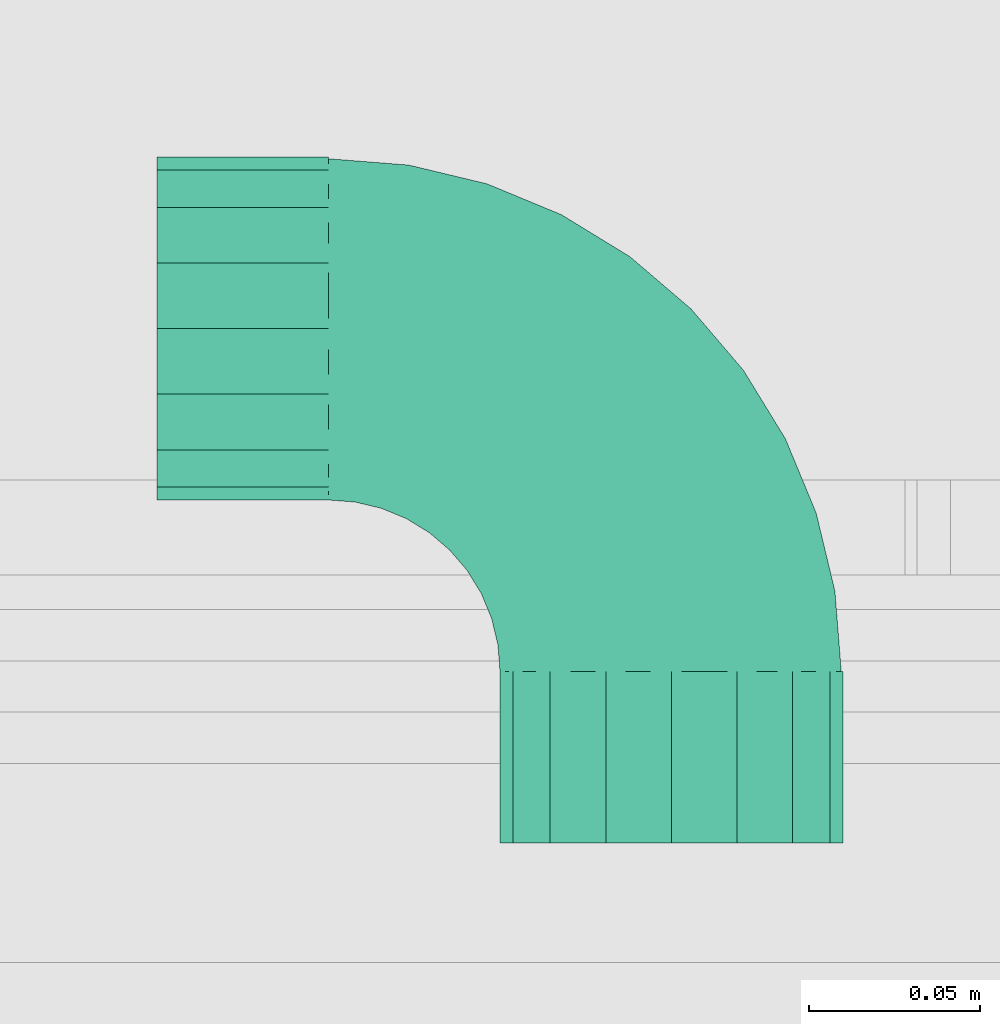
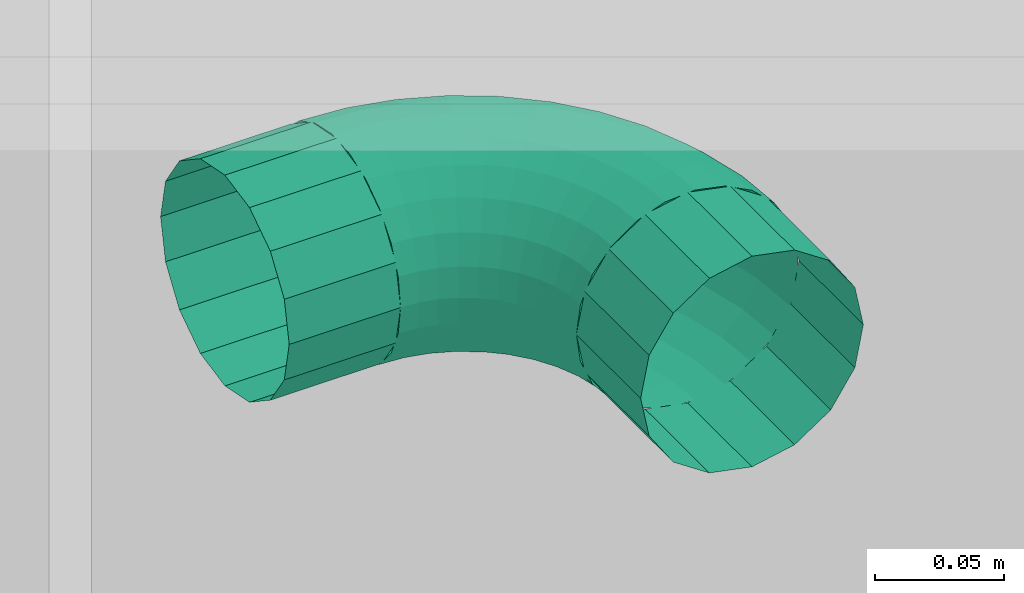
# One storey, part 156 of 169: 1 flow fitting.
"""IFC2X3 building model written with IfcOpenShell, lengths in metres."""

from ifc_helpers import new_model, entity, si_unit, converted_unit, derived_unit, money_unit, direction, frame, origin_with_axes, place, context, subcontext, project, spatial, open_shell, surface_model, material, type_object, element, save


model = new_model("IFC2X3")

# Units and contexts
model_context = context("Model", 3, precision=1e-05, world=origin_with_axes(), true_north=direction((0.0, 1.0)))
body_context = subcontext(model_context, "Body", "Model", "MODEL_VIEW", scale=1.0)
ifc_project = project(units=[si_unit("LENGTHUNIT", "METRE"), si_unit("AREAUNIT", "SQUARE_METRE"), si_unit("VOLUMEUNIT", "CUBIC_METRE"), si_unit("ABSORBEDDOSEUNIT", "GRAY"), si_unit("AMOUNTOFSUBSTANCEUNIT", "MOLE"), si_unit("DOSEEQUIVALENTUNIT", "SIEVERT"), si_unit("ELECTRICCAPACITANCEUNIT", "FARAD"), si_unit("ELECTRICCHARGEUNIT", "COULOMB"), si_unit("ELECTRICCONDUCTANCEUNIT", "SIEMENS"), si_unit("ELECTRICCURRENTUNIT", "AMPERE"), si_unit("ELECTRICRESISTANCEUNIT", "OHM"), si_unit("ELECTRICVOLTAGEUNIT", "VOLT"), si_unit("ENERGYUNIT", "JOULE"), si_unit("FORCEUNIT", "NEWTON"), si_unit("FREQUENCYUNIT", "HERTZ"), si_unit("ILLUMINANCEUNIT", "LUX"), si_unit("INDUCTANCEUNIT", "HENRY"), si_unit("LUMINOUSFLUXUNIT", "LUMEN"), si_unit("LUMINOUSINTENSITYUNIT", "CANDELA"), si_unit("MAGNETICFLUXDENSITYUNIT", "TESLA"), si_unit("MAGNETICFLUXUNIT", "WEBER"), si_unit("MASSUNIT", "GRAM"), converted_unit("PLANEANGLEUNIT", "degree", entity("IfcReal", 0.0174532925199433), si_unit("PLANEANGLEUNIT", "RADIAN"), dimensions=[0, 0, 0, 0, 0, 0, 0]), si_unit("POWERUNIT", "WATT"), si_unit("PRESSUREUNIT", "PASCAL"), si_unit("RADIOACTIVITYUNIT", "BECQUEREL"), si_unit("SOLIDANGLEUNIT", "STERADIAN"), si_unit("THERMODYNAMICTEMPERATUREUNIT", "KELVIN"), si_unit("TIMEUNIT", "SECOND"), derived_unit("ACCELERATIONUNIT", [(si_unit("LENGTHUNIT", "METRE"), 1), (si_unit("TIMEUNIT", "SECOND"), -2)]), derived_unit("ANGULARVELOCITYUNIT", [(converted_unit("PLANEANGLEUNIT", "degree", entity("IfcReal", 0.0174532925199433), si_unit("PLANEANGLEUNIT", "RADIAN"), dimensions=[0, 0, 0, 0, 0, 0, 0]), 1), (si_unit("TIMEUNIT", "SECOND"), -1)]), derived_unit("CURVATUREUNIT", [(converted_unit("PLANEANGLEUNIT", "degree", entity("IfcReal", 0.0174532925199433), si_unit("PLANEANGLEUNIT", "RADIAN"), dimensions=[0, 0, 0, 0, 0, 0, 0]), 1), (si_unit("LENGTHUNIT", "METRE"), -1)]), derived_unit("DYNAMICVISCOSITYUNIT", [(si_unit("PRESSUREUNIT", "PASCAL"), 1), (si_unit("TIMEUNIT", "SECOND"), 1)]), derived_unit("HEATFLUXDENSITYUNIT", [(si_unit("POWERUNIT", "WATT"), 1), (si_unit("LENGTHUNIT", "METRE"), -2)]), derived_unit("HEATINGVALUEUNIT", [(si_unit("ENERGYUNIT", "JOULE"), 1), (si_unit("MASSUNIT", "GRAM"), -1)]), derived_unit("INTEGERCOUNTRATEUNIT", [(si_unit("TIMEUNIT", "SECOND"), -1)]), derived_unit("IONCONCENTRATIONUNIT", [(si_unit("MASSUNIT", "GRAM"), 1), (si_unit("VOLUMEUNIT", "CUBIC_METRE"), -1)]), derived_unit("ISOTHERMALMOISTURECAPACITYUNIT", [(si_unit("VOLUMEUNIT", "CUBIC_METRE"), 1), (si_unit("MASSUNIT", "GRAM"), -1)]), derived_unit("KINEMATICVISCOSITYUNIT", [(si_unit("AREAUNIT", "SQUARE_METRE"), 1), (si_unit("TIMEUNIT", "SECOND"), -1)]), derived_unit("LINEARFORCEUNIT", [(si_unit("FORCEUNIT", "NEWTON"), 1), (si_unit("LENGTHUNIT", "METRE"), -1)]), derived_unit("LINEARMOMENTUNIT", [(si_unit("FORCEUNIT", "NEWTON"), 1), (si_unit("LENGTHUNIT", "METRE"), -1)]), derived_unit("LINEARSTIFFNESSUNIT", [(si_unit("FORCEUNIT", "NEWTON"), 1), (si_unit("LENGTHUNIT", "METRE"), -1)]), derived_unit("LINEARVELOCITYUNIT", [(si_unit("LENGTHUNIT", "METRE"), 1), (si_unit("TIMEUNIT", "SECOND"), -1)]), derived_unit("LUMINOUSINTENSITYDISTRIBUTIONUNIT", [(si_unit("LUMINOUSINTENSITYUNIT", "CANDELA"), 1), (si_unit("LUMINOUSFLUXUNIT", "LUMEN"), -1)]), derived_unit("MASSDENSITYUNIT", [(si_unit("MASSUNIT", "GRAM"), 1), (si_unit("VOLUMEUNIT", "CUBIC_METRE"), -1)]), derived_unit("MASSFLOWRATEUNIT", [(si_unit("MASSUNIT", "GRAM"), 1), (si_unit("TIMEUNIT", "SECOND"), -1)]), derived_unit("MASSPERLENGTHUNIT", [(si_unit("MASSUNIT", "GRAM"), 1), (si_unit("LENGTHUNIT", "METRE"), -1)]), derived_unit("MODULUSOFELASTICITYUNIT", [(si_unit("FORCEUNIT", "NEWTON"), 1), (si_unit("AREAUNIT", "SQUARE_METRE"), -1)]), derived_unit("MODULUSOFLINEARSUBGRADEREACTIONUNIT", [(si_unit("FORCEUNIT", "NEWTON"), 1), (si_unit("LENGTHUNIT", "METRE"), -2)]), derived_unit("MODULUSOFROTATIONALSUBGRADEREACTIONUNIT", [(si_unit("FORCEUNIT", "NEWTON"), 1), (si_unit("LENGTHUNIT", "METRE"), 1)]), derived_unit("MODULUSOFSUBGRADEREACTIONUNIT", [(si_unit("FORCEUNIT", "NEWTON"), 1), (si_unit("VOLUMEUNIT", "CUBIC_METRE"), -1)]), derived_unit("MOISTUREDIFFUSIVITYUNIT", [(si_unit("VOLUMEUNIT", "CUBIC_METRE"), 1), (si_unit("TIMEUNIT", "SECOND"), -1)]), derived_unit("MOLECULARWEIGHTUNIT", [(si_unit("MASSUNIT", "GRAM"), 1), (si_unit("AMOUNTOFSUBSTANCEUNIT", "MOLE"), -1)]), derived_unit("PLANARFORCEUNIT", [(si_unit("FORCEUNIT", "NEWTON"), 1), (si_unit("LENGTHUNIT", "METRE"), -2)]), derived_unit("ROTATIONALFREQUENCYUNIT", [(si_unit("TIMEUNIT", "SECOND"), -1)]), derived_unit("ROTATIONALMASSUNIT", [(si_unit("MASSUNIT", "GRAM"), 1), (si_unit("LENGTHUNIT", "METRE"), 2)]), derived_unit("ROTATIONALSTIFFNESSUNIT", [(si_unit("FORCEUNIT", "NEWTON"), 1), (si_unit("LENGTHUNIT", "METRE"), 1), (converted_unit("PLANEANGLEUNIT", "degree", entity("IfcReal", 0.0174532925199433), si_unit("PLANEANGLEUNIT", "RADIAN"), dimensions=[0, 0, 0, 0, 0, 0, 0]), -1)]), derived_unit("SECTIONAREAINTEGRALUNIT", [(si_unit("LENGTHUNIT", "METRE"), 5)]), derived_unit("SECTIONMODULUSUNIT", [(si_unit("LENGTHUNIT", "METRE"), 3)]), derived_unit("SHEARMODULUSUNIT", [(si_unit("FORCEUNIT", "NEWTON"), 1), (si_unit("AREAUNIT", "SQUARE_METRE"), -1)]), derived_unit("SOUNDPOWERUNIT", [(si_unit("ENERGYUNIT", "JOULE"), 1), (si_unit("TIMEUNIT", "SECOND"), -1)]), derived_unit("SPECIFICHEATCAPACITYUNIT", [(si_unit("FORCEUNIT", "NEWTON"), 1), (si_unit("MASSUNIT", "GRAM"), -1), (si_unit("THERMODYNAMICTEMPERATUREUNIT", "KELVIN"), -1)]), derived_unit("TEMPERATUREGRADIENTUNIT", [(si_unit("THERMODYNAMICTEMPERATUREUNIT", "KELVIN"), 1), (si_unit("LENGTHUNIT", "METRE"), -1)]), derived_unit("THERMALADMITTANCEUNIT", [(si_unit("POWERUNIT", "WATT"), 1), (si_unit("AREAUNIT", "SQUARE_METRE"), -1), (si_unit("THERMODYNAMICTEMPERATUREUNIT", "KELVIN"), -1)]), derived_unit("THERMALCONDUCTANCEUNIT", [(si_unit("POWERUNIT", "WATT"), 1), (si_unit("LENGTHUNIT", "METRE"), -1), (si_unit("THERMODYNAMICTEMPERATUREUNIT", "KELVIN"), -1)]), derived_unit("THERMALEXPANSIONCOEFFICIENTUNIT", [(si_unit("THERMODYNAMICTEMPERATUREUNIT", "KELVIN"), -1)]), derived_unit("THERMALRESISTANCEUNIT", [(si_unit("AREAUNIT", "SQUARE_METRE"), 1), (si_unit("POWERUNIT", "WATT"), -1)]), derived_unit("THERMALTRANSMITTANCEUNIT", [(si_unit("POWERUNIT", "WATT"), 1), (si_unit("AREAUNIT", "SQUARE_METRE"), -1), (si_unit("THERMODYNAMICTEMPERATUREUNIT", "KELVIN"), -1)]), derived_unit("TORQUEUNIT", [(si_unit("FORCEUNIT", "NEWTON"), 1), (si_unit("LENGTHUNIT", "METRE"), 1)]), derived_unit("VAPORPERMEABILITYUNIT", [(si_unit("MASSUNIT", "GRAM"), 1), (si_unit("TIMEUNIT", "SECOND"), -1)]), derived_unit("VOLUMETRICFLOWRATEUNIT", [(si_unit("VOLUMEUNIT", "CUBIC_METRE"), 1), (si_unit("TIMEUNIT", "SECOND"), -1)]), derived_unit("WARPINGCONSTANTUNIT", [(si_unit("LENGTHUNIT", "METRE"), 6)]), derived_unit("WARPINGMOMENTUNIT", [(si_unit("FORCEUNIT", "NEWTON"), 1), (si_unit("LENGTHUNIT", "METRE"), 2)]), money_unit("GBP")], contexts=[model_context])

# Site, building, storey, space
site_placement = place(None, origin_with_axes())
site = spatial("IfcSite", under=ifc_project, at=site_placement, Name="Site", CompositionType="ELEMENT")
building_placement = place(site_placement, origin_with_axes())
building = spatial("IfcBuilding", under=site, at=building_placement, Name="Building01", CompositionType="ELEMENT")
storey_placement = place(building_placement, frame((0.0, 0.0, 5.15), z_axis=(0.0, 0.0, 1.0), x_axis=(1.0, 0.0, 0.0)))
storey = spatial("IfcBuildingStorey", under=building, at=storey_placement, Name="1F", CompositionType="ELEMENT", Elevation=5.15)
space_placement = place(storey_placement, frame((1.009939, 13.890379, 9.86), z_axis=(0.0, 0.0, 1.0), x_axis=(0.0, -1.0, 0.0)))
space = spatial("IfcSpace", under=storey, at=space_placement, Name="26", CompositionType="ELEMENT", InteriorOrExteriorSpace="NOTDEFINED")

# Flow fitting
ifc_material = material(Name="M_BSUK_Ventilation")
duct_fitting_type = type_object("IfcDuctFittingType", Name="M-Roundelbow-DefaultRound", PredefinedType="BEND")
placement = place(building_placement, origin_with_axes())
flow_fitting_placement = place(placement, frame((3.07, 8.432559, 17.28), z_axis=(1.0, 0.0, 0.0), x_axis=(0.0, 1.0, 0.0)))
element("IfcFlowFitting", 1, at=flow_fitting_placement, inside=space, type_object=duct_fitting_type, material=ifc_material, Name="M-Roundelbow-DefaultRound", ObjectType="M-Roundelbow-DefaultRound", context=body_context, shape_type="SurfaceModel", body=[
    surface_model("IfcShellBasedSurfaceModel", [(0.008112, -0.01349, -0.048784), (0.0, -0.01349, -0.048146), (0.0, 0.0, -0.05), (0.007822, 0.0, -0.050616), (0.016024, -0.01349, -0.050684), (0.015451, 0.0, -0.052447), (0.023541, -0.01349, -0.053798), (0.0227, 0.0, -0.05545), (0.030479, -0.01349, -0.058049), (0.029389, 0.0, -0.059549), (0.036666, -0.01349, -0.063334), (0.035355, 0.0, -0.064645), (0.041951, -0.01349, -0.069521), (0.040451, 0.0, -0.070611), (0.046202, -0.01349, -0.076459), (0.04455, 0.0, -0.0773), (0.049316, -0.01349, -0.083976), (0.047553, 0.0, -0.084549), (0.051216, -0.01349, -0.091888), (0.049384, 0.0, -0.092178), (0.051854, -0.01349, -0.1), (0.05, 0.0, -0.1), (0.00896, -0.025979, -0.043426), (0.0, -0.025979, -0.042721), (0.0177, -0.025979, -0.045524), (0.026004, -0.025979, -0.048964), (0.033668, -0.025979, -0.05366), (0.040502, -0.025979, -0.059498), (0.04634, -0.025979, -0.066332), (0.051036, -0.025979, -0.073996), (0.054476, -0.025979, -0.0823), (0.056574, -0.025979, -0.09104), (0.057279, -0.025979, -0.1), (0.010305, -0.036542, -0.034939), (0.0, -0.036542, -0.034128), (0.020356, -0.036542, -0.037352), (0.029905, -0.036542, -0.041307), (0.038719, -0.036542, -0.046708), (0.046579, -0.036542, -0.053421), (0.053292, -0.036542, -0.061281), (0.058693, -0.036542, -0.070095), (0.062648, -0.036542, -0.079644), (0.065061, -0.036542, -0.089695), (0.065872, -0.036542, -0.1), (0.012045, -0.044394, -0.023951), (0.0, -0.044394, -0.023003), (0.023793, -0.044394, -0.026772), (0.034956, -0.044394, -0.031395), (0.045258, -0.044394, -0.037708), (0.054445, -0.044394, -0.045555), (0.062292, -0.044394, -0.054742), (0.068605, -0.044394, -0.065044), (0.073228, -0.044394, -0.076207), (0.076049, -0.044394, -0.087955), (0.076997, -0.044394, -0.1), (0.014052, -0.048954, -0.011279), (0.0, -0.048954, -0.010173), (0.027758, -0.048954, -0.014569), (0.040781, -0.048954, -0.019963), (0.052799, -0.048954, -0.027328), (0.063517, -0.048954, -0.036483), (0.072672, -0.048954, -0.047201), (0.080037, -0.048954, -0.059219), (0.085431, -0.048954, -0.072242), (0.088721, -0.048954, -0.085948), (0.089827, -0.048954, -0.1), (0.016177, -0.049883, 0.002139), (0.0, -0.049883, 0.003412), (0.031956, -0.049883, -0.001649), (0.046948, -0.049883, -0.007859), (0.060784, -0.049883, -0.016338), (0.073123, -0.049883, -0.026877), (0.083662, -0.049883, -0.039216), (0.092141, -0.049883, -0.053052), (0.098351, -0.049883, -0.068044), (0.102139, -0.049883, -0.083823), (0.103412, -0.049883, -0.1), (0.018263, -0.047113, 0.015307), (0.0, -0.047113, 0.016744), (0.036076, -0.047113, 0.01103), (0.053001, -0.047113, 0.00402), (0.06862, -0.047113, -0.005552), (0.08255, -0.047113, -0.01745), (0.094448, -0.047113, -0.03138), (0.10402, -0.047113, -0.046999), (0.11103, -0.047113, -0.063924), (0.115307, -0.047113, -0.081737), (0.116744, -0.047113, -0.1), (0.020154, -0.040848, 0.027248), (0.0, -0.040848, 0.028834), (0.039812, -0.040848, 0.022528), (0.058489, -0.040848, 0.014792), (0.075727, -0.040848, 0.004229), (0.091099, -0.040848, -0.008901), (0.104229, -0.040848, -0.024273), (0.114792, -0.040848, -0.041511), (0.122528, -0.040848, -0.060188), (0.127248, -0.040848, -0.079846), (0.128834, -0.040848, -0.1), (0.021711, -0.031554, 0.037077), (0.0, -0.031554, 0.038786), (0.042887, -0.031554, 0.031993), (0.063007, -0.031554, 0.023659), (0.081576, -0.031554, 0.01228), (0.098136, -0.031554, -0.001864), (0.11228, -0.031554, -0.018424), (0.123659, -0.031554, -0.036993), (0.131993, -0.031554, -0.057113), (0.137077, -0.031554, -0.078289), (0.138786, -0.031554, -0.1), (0.022818, -0.01992, 0.044065), (0.0, -0.01992, 0.045861), (0.045073, -0.01992, 0.038722), (0.066219, -0.01992, 0.029963), (0.085735, -0.01992, 0.018004), (0.103139, -0.01992, 0.003139), (0.118004, -0.01992, -0.014265), (0.129963, -0.01992, -0.033781), (0.138722, -0.01992, -0.054927), (0.144065, -0.01992, -0.077182), (0.145861, -0.01992, -0.1), (0.023392, -0.006808, 0.047693), (0.0, -0.006808, 0.049534), (0.046209, -0.006808, 0.042216), (0.067887, -0.006808, 0.033236), (0.087894, -0.006808, 0.020976), (0.105737, -0.006808, 0.005737), (0.120976, -0.006808, -0.012106), (0.133236, -0.006808, -0.032113), (0.142216, -0.006808, -0.053791), (0.147693, -0.006808, -0.076608), (0.149534, -0.006808, -0.1), (0.023392, 0.006808, 0.047693), (0.0, 0.006808, 0.049534), (0.046209, 0.006808, 0.042216), (0.067887, 0.006808, 0.033236), (0.087894, 0.006808, 0.020976), (0.105737, 0.006808, 0.005737), (0.120976, 0.006808, -0.012106), (0.133236, 0.006808, -0.032113), (0.142216, 0.006808, -0.053791), (0.147693, 0.006808, -0.076608), (0.149534, 0.006808, -0.1), (0.022818, 0.01992, 0.044065), (0.0, 0.01992, 0.045861), (0.045073, 0.01992, 0.038722), (0.066219, 0.01992, 0.029963), (0.085735, 0.01992, 0.018004), (0.103139, 0.01992, 0.003139), (0.118004, 0.01992, -0.014265), (0.129963, 0.01992, -0.033781), (0.138722, 0.01992, -0.054927), (0.144065, 0.01992, -0.077182), (0.145861, 0.01992, -0.1), (0.021711, 0.031554, 0.037077), (0.0, 0.031554, 0.038786), (0.042887, 0.031554, 0.031993), (0.063007, 0.031554, 0.023659), (0.081576, 0.031554, 0.01228), (0.098136, 0.031554, -0.001864), (0.11228, 0.031554, -0.018424), (0.123659, 0.031554, -0.036993), (0.131993, 0.031554, -0.057113), (0.137077, 0.031554, -0.078289), (0.138786, 0.031554, -0.1), (0.020154, 0.040848, 0.027248), (0.0, 0.040848, 0.028834), (0.039812, 0.040848, 0.022528), (0.058489, 0.040848, 0.014792), (0.075727, 0.040848, 0.004229), (0.091099, 0.040848, -0.008901), (0.104229, 0.040848, -0.024273), (0.114792, 0.040848, -0.041511), (0.122528, 0.040848, -0.060188), (0.127248, 0.040848, -0.079846), (0.128834, 0.040848, -0.1), (0.018263, 0.047113, 0.015307), (0.0, 0.047113, 0.016744), (0.036076, 0.047113, 0.01103), (0.053001, 0.047113, 0.00402), (0.06862, 0.047113, -0.005552), (0.08255, 0.047113, -0.01745), (0.094448, 0.047113, -0.03138), (0.10402, 0.047113, -0.046999), (0.11103, 0.047113, -0.063924), (0.115307, 0.047113, -0.081737), (0.116744, 0.047113, -0.1), (0.016177, 0.049883, 0.002139), (0.0, 0.049883, 0.003412), (0.031956, 0.049883, -0.001649), (0.046948, 0.049883, -0.007859), (0.060784, 0.049883, -0.016338), (0.073123, 0.049883, -0.026877), (0.083662, 0.049883, -0.039216), (0.092141, 0.049883, -0.053052), (0.098351, 0.049883, -0.068044), (0.102139, 0.049883, -0.083823), (0.103412, 0.049883, -0.1), (0.014052, 0.048954, -0.011279), (0.0, 0.048954, -0.010173), (0.027758, 0.048954, -0.014569), (0.040781, 0.048954, -0.019963), (0.052799, 0.048954, -0.027328), (0.063517, 0.048954, -0.036483), (0.072672, 0.048954, -0.047201), (0.080037, 0.048954, -0.059219), (0.085431, 0.048954, -0.072242), (0.088721, 0.048954, -0.085948), (0.089827, 0.048954, -0.1), (0.012045, 0.044394, -0.023951), (0.0, 0.044394, -0.023003), (0.023793, 0.044394, -0.026772), (0.034956, 0.044394, -0.031395), (0.045258, 0.044394, -0.037708), (0.054445, 0.044394, -0.045555), (0.062292, 0.044394, -0.054742), (0.068605, 0.044394, -0.065044), (0.073228, 0.044394, -0.076207), (0.076049, 0.044394, -0.087955), (0.076997, 0.044394, -0.1), (0.010305, 0.036542, -0.034939), (0.0, 0.036542, -0.034128), (0.020356, 0.036542, -0.037352), (0.029905, 0.036542, -0.041307), (0.038719, 0.036542, -0.046708), (0.046579, 0.036542, -0.053421), (0.053292, 0.036542, -0.061281), (0.058693, 0.036542, -0.070095), (0.062648, 0.036542, -0.079644), (0.065061, 0.036542, -0.089695), (0.065872, 0.036542, -0.1), (0.00896, 0.025979, -0.043426), (0.0, 0.025979, -0.042721), (0.0177, 0.025979, -0.045524), (0.026004, 0.025979, -0.048964), (0.033668, 0.025979, -0.05366), (0.040502, 0.025979, -0.059498), (0.04634, 0.025979, -0.066332), (0.051036, 0.025979, -0.073996), (0.054476, 0.025979, -0.0823), (0.056574, 0.025979, -0.09104), (0.057279, 0.025979, -0.1), (0.008112, 0.01349, -0.048784), (0.0, 0.01349, -0.048146), (0.016024, 0.01349, -0.050684), (0.023541, 0.01349, -0.053798), (0.030479, 0.01349, -0.058049), (0.036666, 0.01349, -0.063334), (0.041951, 0.01349, -0.069521), (0.046202, 0.01349, -0.076459), (0.049316, 0.01349, -0.083976), (0.051216, 0.01349, -0.091888), (0.051854, 0.01349, -0.1), (-0.05, 0.0, -0.05), (0.0, -0.019134, -0.046194), (-0.05, -0.019134, -0.046194), (0.0, -0.035355, -0.035355), (-0.05, -0.035355, -0.035355), (0.0, -0.046194, -0.019134), (-0.05, -0.046194, -0.019134), (0.0, -0.05, 0.0), (-0.05, -0.05, 0.0), (0.0, -0.046194, 0.019134), (-0.05, -0.046194, 0.019134), (0.0, -0.035355, 0.035355), (-0.05, -0.035355, 0.035355), (0.0, -0.019134, 0.046194), (-0.05, -0.019134, 0.046194), (0.0, 0.0, 0.05), (-0.05, 0.0, 0.05), (0.0, 0.019134, 0.046194), (-0.05, 0.019134, 0.046194), (0.0, 0.035355, 0.035355), (-0.05, 0.035355, 0.035355), (0.0, 0.046194, 0.019134), (-0.05, 0.046194, 0.019134), (0.0, 0.05, 0.0), (-0.05, 0.05, 0.0), (0.0, 0.046194, -0.019134), (-0.05, 0.046194, -0.019134), (0.0, 0.035355, -0.035355), (-0.05, 0.035355, -0.035355), (0.0, 0.019134, -0.046194), (-0.05, 0.019134, -0.046194), (0.05, 0.0, -0.15), (0.053806, 0.019134, -0.1), (0.053806, 0.019134, -0.15), (0.064645, 0.035355, -0.1), (0.064645, 0.035355, -0.15), (0.080866, 0.046194, -0.1), (0.080866, 0.046194, -0.15), (0.1, 0.05, -0.1), (0.1, 0.05, -0.15), (0.119134, 0.046194, -0.1), (0.119134, 0.046194, -0.15), (0.135355, 0.035355, -0.1), (0.135355, 0.035355, -0.15), (0.146194, 0.019134, -0.1), (0.146194, 0.019134, -0.15), (0.15, 0.0, -0.1), (0.15, 0.0, -0.15), (0.146194, -0.019134, -0.1), (0.146194, -0.019134, -0.15), (0.135355, -0.035355, -0.1), (0.135355, -0.035355, -0.15), (0.119134, -0.046194, -0.1), (0.119134, -0.046194, -0.15), (0.1, -0.05, -0.1), (0.1, -0.05, -0.15), (0.080866, -0.046194, -0.1), (0.080866, -0.046194, -0.15), (0.064645, -0.035355, -0.1), (0.064645, -0.035355, -0.15), (0.053806, -0.019134, -0.1), (0.053806, -0.019134, -0.15)], [open_shell([[[0, 1, 2, 3]], [[4, 0, 3, 5]], [[6, 4, 5, 7]], [[8, 6, 7, 9]], [[10, 8, 9, 11]], [[12, 10, 11, 13]], [[14, 12, 13, 15]], [[16, 14, 15, 17]], [[18, 16, 17, 19]], [[20, 18, 19, 21]], [[22, 23, 1, 0]], [[24, 22, 0, 4]], [[25, 24, 4, 6]], [[26, 25, 6, 8]], [[27, 26, 8, 10]], [[28, 27, 10, 12]], [[29, 28, 12, 14]], [[30, 29, 14, 16]], [[31, 30, 16, 18]], [[32, 31, 18, 20]], [[33, 34, 23, 22]], [[35, 33, 22, 24]], [[36, 35, 24, 25]], [[37, 36, 25, 26]], [[38, 37, 26, 27]], [[39, 38, 27, 28]], [[40, 39, 28, 29]], [[41, 40, 29, 30]], [[42, 41, 30, 31]], [[43, 42, 31, 32]], [[44, 45, 34, 33]], [[46, 44, 33, 35]], [[47, 46, 35, 36]], [[48, 47, 36, 37]], [[49, 48, 37, 38]], [[50, 49, 38, 39]], [[51, 50, 39, 40]], [[52, 51, 40, 41]], [[53, 52, 41, 42]], [[54, 53, 42, 43]], [[55, 56, 45, 44]], [[57, 55, 44, 46]], [[58, 57, 46, 47]], [[59, 58, 47, 48]], [[60, 59, 48, 49]], [[61, 60, 49, 50]], [[62, 61, 50, 51]], [[63, 62, 51, 52]], [[64, 63, 52, 53]], [[65, 64, 53, 54]], [[66, 67, 56, 55]], [[68, 66, 55, 57]], [[69, 68, 57, 58]], [[70, 69, 58, 59]], [[71, 70, 59, 60]], [[72, 71, 60, 61]], [[73, 72, 61, 62]], [[74, 73, 62, 63]], [[75, 74, 63, 64]], [[76, 75, 64, 65]], [[77, 78, 67, 66]], [[79, 77, 66, 68]], [[80, 79, 68, 69]], [[81, 80, 69, 70]], [[82, 81, 70, 71]], [[83, 82, 71, 72]], [[84, 83, 72, 73]], [[85, 84, 73, 74]], [[86, 85, 74, 75]], [[87, 86, 75, 76]], [[88, 89, 78, 77]], [[90, 88, 77, 79]], [[91, 90, 79, 80]], [[92, 91, 80, 81]], [[93, 92, 81, 82]], [[94, 93, 82, 83]], [[95, 94, 83, 84]], [[96, 95, 84, 85]], [[97, 96, 85, 86]], [[98, 97, 86, 87]], [[99, 100, 89, 88]], [[101, 99, 88, 90]], [[102, 101, 90, 91]], [[103, 102, 91, 92]], [[104, 103, 92, 93]], [[105, 104, 93, 94]], [[106, 105, 94, 95]], [[107, 106, 95, 96]], [[108, 107, 96, 97]], [[109, 108, 97, 98]], [[110, 111, 100, 99]], [[112, 110, 99, 101]], [[113, 112, 101, 102]], [[114, 113, 102, 103]], [[115, 114, 103, 104]], [[116, 115, 104, 105]], [[117, 116, 105, 106]], [[118, 117, 106, 107]], [[119, 118, 107, 108]], [[120, 119, 108, 109]], [[121, 122, 111, 110]], [[123, 121, 110, 112]], [[124, 123, 112, 113]], [[125, 124, 113, 114]], [[126, 125, 114, 115]], [[127, 126, 115, 116]], [[128, 127, 116, 117]], [[129, 128, 117, 118]], [[130, 129, 118, 119]], [[131, 130, 119, 120]], [[132, 133, 122, 121]], [[134, 132, 121, 123]], [[135, 134, 123, 124]], [[136, 135, 124, 125]], [[137, 136, 125, 126]], [[138, 137, 126, 127]], [[139, 138, 127, 128]], [[140, 139, 128, 129]], [[141, 140, 129, 130]], [[142, 141, 130, 131]], [[143, 144, 133, 132]], [[145, 143, 132, 134]], [[146, 145, 134, 135]], [[147, 146, 135, 136]], [[148, 147, 136, 137]], [[149, 148, 137, 138]], [[150, 149, 138, 139]], [[151, 150, 139, 140]], [[152, 151, 140, 141]], [[153, 152, 141, 142]], [[154, 155, 144, 143]], [[156, 154, 143, 145]], [[157, 156, 145, 146]], [[158, 157, 146, 147]], [[159, 158, 147, 148]], [[160, 159, 148, 149]], [[161, 160, 149, 150]], [[162, 161, 150, 151]], [[163, 162, 151, 152]], [[164, 163, 152, 153]], [[165, 166, 155, 154]], [[167, 165, 154, 156]], [[168, 167, 156, 157]], [[169, 168, 157, 158]], [[170, 169, 158, 159]], [[171, 170, 159, 160]], [[172, 171, 160, 161]], [[173, 172, 161, 162]], [[174, 173, 162, 163]], [[175, 174, 163, 164]], [[176, 177, 166, 165]], [[178, 176, 165, 167]], [[179, 178, 167, 168]], [[180, 179, 168, 169]], [[181, 180, 169, 170]], [[182, 181, 170, 171]], [[183, 182, 171, 172]], [[184, 183, 172, 173]], [[185, 184, 173, 174]], [[186, 185, 174, 175]], [[187, 188, 177, 176]], [[189, 187, 176, 178]], [[190, 189, 178, 179]], [[191, 190, 179, 180]], [[192, 191, 180, 181]], [[193, 192, 181, 182]], [[194, 193, 182, 183]], [[195, 194, 183, 184]], [[196, 195, 184, 185]], [[197, 196, 185, 186]], [[198, 199, 188, 187]], [[200, 198, 187, 189]], [[201, 200, 189, 190]], [[202, 201, 190, 191]], [[203, 202, 191, 192]], [[204, 203, 192, 193]], [[205, 204, 193, 194]], [[206, 205, 194, 195]], [[207, 206, 195, 196]], [[208, 207, 196, 197]], [[209, 210, 199, 198]], [[211, 209, 198, 200]], [[212, 211, 200, 201]], [[213, 212, 201, 202]], [[214, 213, 202, 203]], [[215, 214, 203, 204]], [[216, 215, 204, 205]], [[217, 216, 205, 206]], [[218, 217, 206, 207]], [[219, 218, 207, 208]], [[220, 221, 210, 209]], [[222, 220, 209, 211]], [[223, 222, 211, 212]], [[224, 223, 212, 213]], [[225, 224, 213, 214]], [[226, 225, 214, 215]], [[227, 226, 215, 216]], [[228, 227, 216, 217]], [[229, 228, 217, 218]], [[230, 229, 218, 219]], [[231, 232, 221, 220]], [[233, 231, 220, 222]], [[234, 233, 222, 223]], [[235, 234, 223, 224]], [[236, 235, 224, 225]], [[237, 236, 225, 226]], [[238, 237, 226, 227]], [[239, 238, 227, 228]], [[240, 239, 228, 229]], [[241, 240, 229, 230]], [[242, 243, 232, 231]], [[244, 242, 231, 233]], [[245, 244, 233, 234]], [[246, 245, 234, 235]], [[247, 246, 235, 236]], [[248, 247, 236, 237]], [[249, 248, 237, 238]], [[250, 249, 238, 239]], [[251, 250, 239, 240]], [[252, 251, 240, 241]], [[3, 2, 243, 242]], [[5, 3, 242, 244]], [[7, 5, 244, 245]], [[9, 7, 245, 246]], [[11, 9, 246, 247]], [[13, 11, 247, 248]], [[15, 13, 248, 249]], [[17, 15, 249, 250]], [[19, 17, 250, 251]], [[21, 19, 251, 252]], [[253, 2, 254, 255]], [[255, 254, 256, 257]], [[257, 256, 258, 259]], [[259, 258, 260, 261]], [[261, 260, 262, 263]], [[263, 262, 264, 265]], [[265, 264, 266, 267]], [[267, 266, 268, 269]], [[269, 268, 270, 271]], [[271, 270, 272, 273]], [[273, 272, 274, 275]], [[275, 274, 276, 277]], [[277, 276, 278, 279]], [[279, 278, 280, 281]], [[281, 280, 282, 283]], [[283, 282, 2, 253]], [[284, 21, 285, 286]], [[286, 285, 287, 288]], [[288, 287, 289, 290]], [[290, 289, 291, 292]], [[292, 291, 293, 294]], [[294, 293, 295, 296]], [[296, 295, 297, 298]], [[298, 297, 299, 300]], [[300, 299, 301, 302]], [[302, 301, 303, 304]], [[304, 303, 305, 306]], [[306, 305, 307, 308]], [[308, 307, 309, 310]], [[310, 309, 311, 312]], [[312, 311, 313, 314]], [[314, 313, 21, 284]]])]),
])

save(model, "model.ifc")
